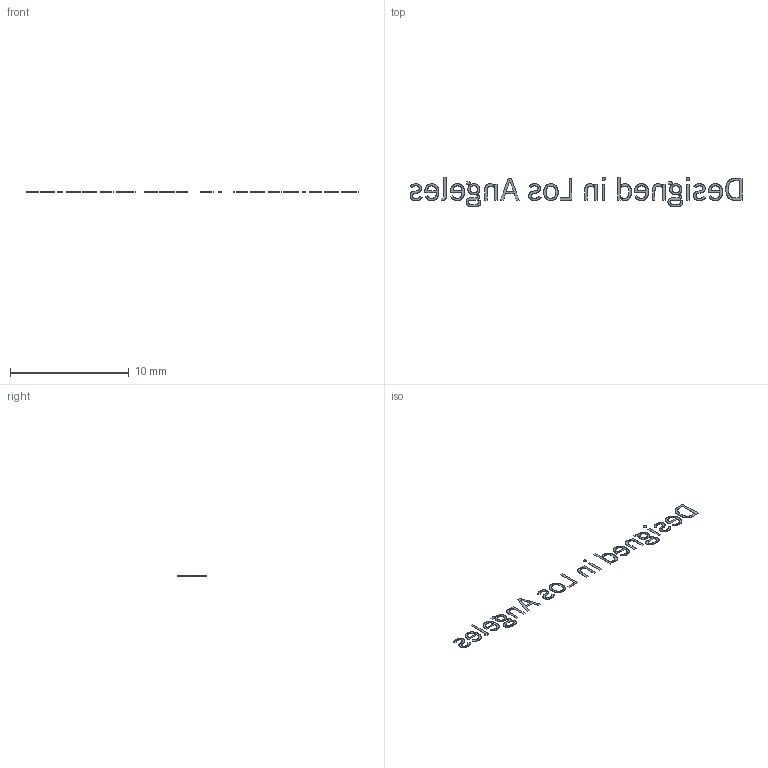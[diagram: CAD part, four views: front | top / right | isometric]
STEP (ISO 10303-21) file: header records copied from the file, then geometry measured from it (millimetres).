
FILE_DESCRIPTION(('Open CASCADE Model'),'2;1');
FILE_NAME('Open CASCADE Shape Model','2026-09-04T21:48:09',('Author'),( 'Open CASCADE'),'Open CASCADE STEP processor 7.7','Open CASCADE 7.7' ,'Unknown');
FILE_SCHEMA(('AUTOMOTIVE_DESIGN { 1 0 10303 214 1 1 1 1 }'));
Length unit declared in the file: millimetre
Products named in the file (23): Open CASCADE STEP translator 7.7 3; Open CASCADE STEP translator 7.7 3.1; Open CASCADE STEP translator 7.7 3.2; Open CASCADE STEP translator 7.7 3.3; Open CASCADE STEP translator 7.7 3.4; Open CASCADE STEP translator 7.7 3.5; Open CASCADE STEP translator 7.7 3.6; Open CASCADE STEP translator 7.7 3.7; Open CASCADE STEP translator 7.7 3.8; Open CASCADE STEP translator 7.7 3.9; Open CASCADE STEP translator 7.7 3.10; Open CASCADE STEP translator 7.7 3.11; Open CASCADE STEP translator 7.7 3.12; Open CASCADE STEP translator 7.7 3.13; Open CASCADE STEP translator 7.7 3.14; Open CASCADE STEP translator 7.7 3.15; Open CASCADE STEP translator 7.7 3.16; Open CASCADE STEP translator 7.7 3.17; Open CASCADE STEP translator 7.7 3.18; Open CASCADE STEP translator 7.7 3.19; Open CASCADE STEP translator 7.7 3.20; Open CASCADE STEP translator 7.7 3.21; Open CASCADE STEP translator 7.7 3.22
Assembly tree (22 placements, depth 2):
  Open CASCADE STEP translator 7.7 3
    Open CASCADE STEP translator 7.7 3.1
    Open CASCADE STEP translator 7.7 3.2
    Open CASCADE STEP translator 7.7 3.3
    Open CASCADE STEP translator 7.7 3.4
    Open CASCADE STEP translator 7.7 3.5
    Open CASCADE STEP translator 7.7 3.6
    Open CASCADE STEP translator 7.7 3.7
    Open CASCADE STEP translator 7.7 3.8
    Open CASCADE STEP translator 7.7 3.9
    Open CASCADE STEP translator 7.7 3.10
    Open CASCADE STEP translator 7.7 3.11
    Open CASCADE STEP translator 7.7 3.12
    Open CASCADE STEP translator 7.7 3.13
    Open CASCADE STEP translator 7.7 3.14
    Open CASCADE STEP translator 7.7 3.15
    Open CASCADE STEP translator 7.7 3.16
    Open CASCADE STEP translator 7.7 3.17
    Open CASCADE STEP translator 7.7 3.18
    Open CASCADE STEP translator 7.7 3.19
    Open CASCADE STEP translator 7.7 3.20
    Open CASCADE STEP translator 7.7 3.21
    Open CASCADE STEP translator 7.7 3.22
Bounding box: 28 x 2.49 x 0.01 mm (x, y, z)
Volume: 0.1 mm3; surface area: 29.8 mm2
Topology: 22 solids, 22 shells, 11775 faces, 35193 edges, 23462 vertices
Faces by surface type: plane 11775
Entity records: 845488 total; most frequent: CARTESIAN_POINT 140839, DIRECTION 129175, LINE 105579, VECTOR 105579, ORIENTED_EDGE 70386, PCURVE 70386, DEFINITIONAL_REPRESENTATION 70386, EDGE_CURVE 35193
